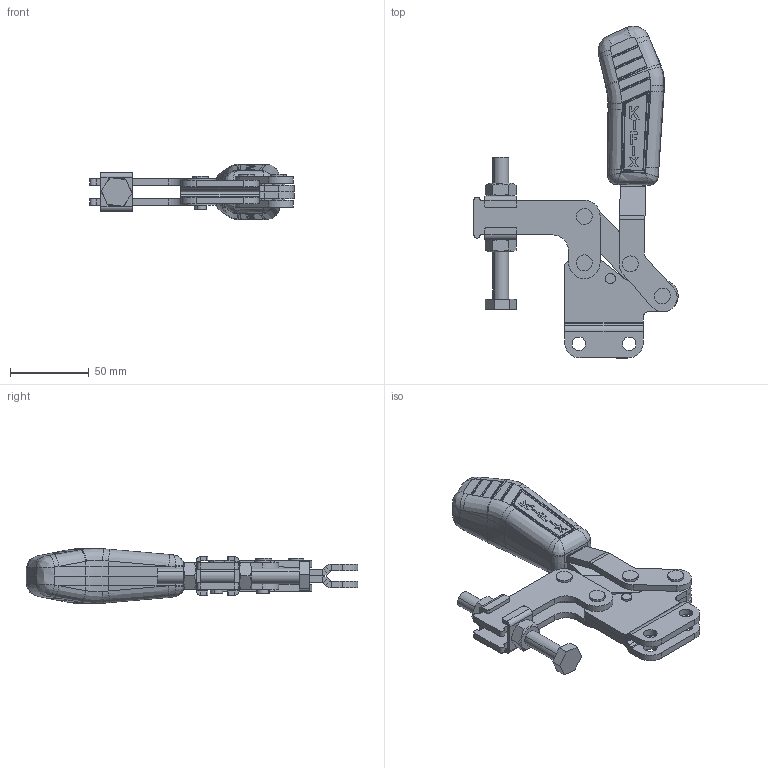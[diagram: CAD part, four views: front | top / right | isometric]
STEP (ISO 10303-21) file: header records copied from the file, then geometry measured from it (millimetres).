
FILE_DESCRIPTION (( 'STEP AP203' ), '1' );
FILE_NAME ('KF-631 RI.STEP', '2018-11-29T18:07:12', ( 'Ricardo' ), ( '' ), 'SwSTEP 2.0', 'SolidWorks 2018', '' );
FILE_SCHEMA (( 'CONFIG_CONTROL_DESIGN' ));
Length unit declared in the file: millimetre
Products named in the file (13): 3670000087; 02.11034_Direita; 01.10016_Direita; 02.11034_Esquerda; 01.10016_Esquerda; 03.13018; 3670000086; 08.10008; KF-631 RI; 07.60002; 14.10003; 12.50021; 11.50003
Assembly tree (19 placements, depth 2):
  KF-631 RI
    02.11034_Direita
    02.11034_Esquerda
    03.13018  x2
    08.10008  x2
    07.60002
    14.10003  x2
    12.50021
    11.50003  x2
    3670000087
    01.10016_Direita
    01.10016_Esquerda
    3670000086  x4
Bounding box: 129.5 x 210.43 x 35.03 mm (x, y, z)
Volume: 177504.5 mm3; surface area: 74762.6 mm2
Topology: 19 solids, 19 shells, 729 faces, 1802 edges, 1125 vertices
Faces by surface type: plane 295, cylinder 202, bspline 157, sphere 52, cone 20, torus 3
Entity records: 24445 total; most frequent: CARTESIAN_POINT 9038, ORIENTED_EDGE 3136, DIRECTION 2503, EDGE_CURVE 1568, VERTEX_POINT 981, AXIS2_PLACEMENT_3D 939, EDGE_LOOP 701, ADVANCED_FACE 634
